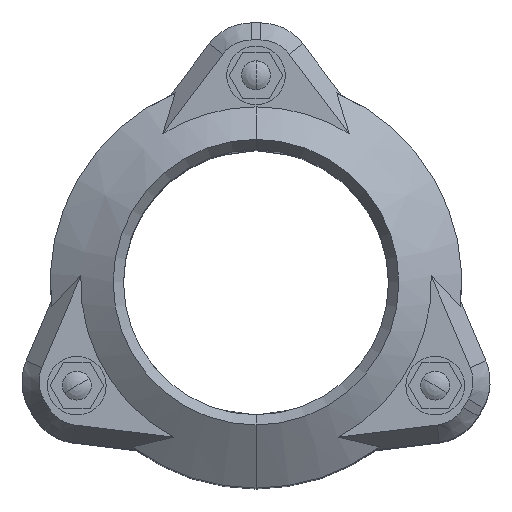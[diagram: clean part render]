
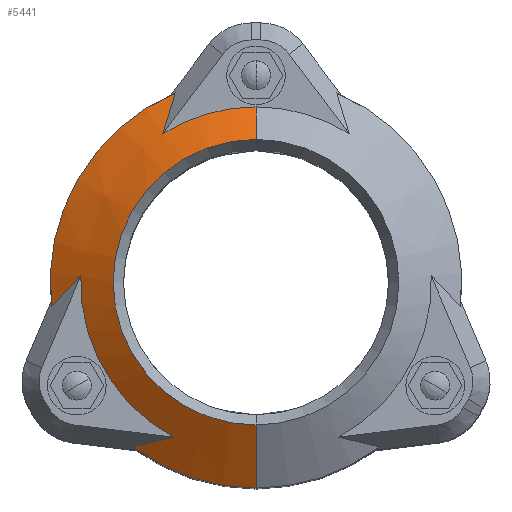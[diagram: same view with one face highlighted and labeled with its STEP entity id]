
A CAD part, top view. The second image highlights one B-rep face of the part: STEP entity #5441.
In plain terms, the highlighted conical face has half-angle 58 degrees and reference radius 71.396 mm.
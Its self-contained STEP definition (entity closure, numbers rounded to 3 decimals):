
#4231=CARTESIAN_POINT('',(-50.591,-67.421,
6.884));
#4257=CARTESIAN_POINT('',(-83.684,-10.102,
6.884));
#4314=CARTESIAN_POINT('',(-83.684,-10.102,
6.884));
#4315=CARTESIAN_POINT('',(-82.433,-8.866,
7.752));
#4316=CARTESIAN_POINT('',(-80.071,-6.485,
9.37));
#4317=CARTESIAN_POINT('',(-76.972,-3.235,
11.427));
#4318=CARTESIAN_POINT('',(-74.217,-0.216,
13.191));
#4319=CARTESIAN_POINT('',(-72.552,1.698,14.211));
#4320=CARTESIAN_POINT('',(-71.767,2.624,14.68));
#4322=CARTESIAN_POINT('',(0.,0.,6.884));
#4323=DIRECTION('',(0.,0.,-1.));
#4324=DIRECTION('',(-0.993,-0.12,0.));
#4325=AXIS2_PLACEMENT_3D('',#4322,#4323,#4324);
#4327=CARTESIAN_POINT('',(-38.156,60.84,14.68));
#4328=CARTESIAN_POINT('',(-37.746,61.984,14.21));
#4329=CARTESIAN_POINT('',(-36.92,64.386,13.189));
#4330=CARTESIAN_POINT('',(-35.681,68.289,11.422));
#4331=CARTESIAN_POINT('',(-34.415,72.6,9.363));
#4332=CARTESIAN_POINT('',(-33.537,75.828,7.749));
#4333=CARTESIAN_POINT('',(-33.093,77.523,6.884));
#4335=CARTESIAN_POINT('',(0.,0.,14.68));
#4336=DIRECTION('',(0.,0.,-1.));
#4337=DIRECTION('',(-0.531,0.847,0.));
#4338=AXIS2_PLACEMENT_3D('',#4335,#4336,#4337);
#4340=DIRECTION('',(0.,-0.848,0.53));
#4341=VECTOR('',#4340,15.701);
#4342=CARTESIAN_POINT('',(0.,71.815,14.68));
#4343=LINE('',#4342,#4341);
#4344=DIRECTION('',(0.,0.848,0.53));
#4345=VECTOR('',#4344,30.413);
#4346=CARTESIAN_POINT('',(0.,-84.291,6.884));
#4347=LINE('',#4346,#4345);
#4348=CARTESIAN_POINT('',(0.,0.,6.884));
#4349=DIRECTION('',(0.,0.,-1.));
#4350=DIRECTION('',(0.,-1.,0.));
#4351=AXIS2_PLACEMENT_3D('',#4348,#4349,#4350);
#4353=CARTESIAN_POINT('',(-33.611,-63.464,14.68));
#4354=CARTESIAN_POINT('',(-34.814,-63.682,
14.208));
#4355=CARTESIAN_POINT('',(-37.316,-64.169,
13.183));
#4356=CARTESIAN_POINT('',(-41.315,-65.049,
11.414));
#4357=CARTESIAN_POINT('',(-45.672,-66.106,
9.36));
#4358=CARTESIAN_POINT('',(-48.903,-66.959,
7.748));
#4359=CARTESIAN_POINT('',(-50.591,-67.421,
6.884));
#4361=CARTESIAN_POINT('',(0.,0.,14.68));
#4362=DIRECTION('',(0.,0.,1.));
#4363=DIRECTION('',(-0.999,0.037,0.));
#4364=AXIS2_PLACEMENT_3D('',#4361,#4362,#4363);
#4898=CARTESIAN_POINT('',(0.,0.,23.));
#4899=DIRECTION('',(0.,0.,1.));
#4900=DIRECTION('',(0.,1.,0.));
#4901=AXIS2_PLACEMENT_3D('',#4898,#4899,#4900);
#5051=CARTESIAN_POINT('',(0.,58.5,23.));
#5052=VERTEX_POINT('',#5051);
#5057=CARTESIAN_POINT('',(0.,-84.291,6.884));
#5058=CARTESIAN_POINT('',(0.,-58.5,23.));
#5059=VERTEX_POINT('',#5057);
#5060=VERTEX_POINT('',#5058);
#5069=CARTESIAN_POINT('',(0.,71.815,14.68));
#5070=VERTEX_POINT('',#5069);
#5080=CARTESIAN_POINT('',(-38.156,60.84,14.68));
#5082=VERTEX_POINT('',#5080);
#5100=VERTEX_POINT('',#4333);
#5202=CARTESIAN_POINT('',(-33.611,-63.464,14.68));
#5204=VERTEX_POINT('',#5202);
#5217=CARTESIAN_POINT('',(-71.767,2.624,14.68));
#5218=VERTEX_POINT('',#5217);
#5265=VERTEX_POINT('',#4257);
#5268=VERTEX_POINT('',#4231);
#5417=CARTESIAN_POINT('',(0.,0.,14.942));
#5418=DIRECTION('',(0.,0.,-1.));
#5419=DIRECTION('',(0.,-1.,0.));
#5420=AXIS2_PLACEMENT_3D('',#5417,#5418,#5419);
#5421=CONICAL_SURFACE('',#5420,71.396,58.);
#5423=ORIENTED_EDGE('',*,*,#5422,.F.);
#5424=ORIENTED_EDGE('',*,*,#5376,.T.);
#5426=ORIENTED_EDGE('',*,*,#5425,.F.);
#5428=ORIENTED_EDGE('',*,*,#5427,.T.);
#5430=ORIENTED_EDGE('',*,*,#5429,.T.);
#5432=ORIENTED_EDGE('',*,*,#5431,.T.);
#5434=ORIENTED_EDGE('',*,*,#5433,.F.);
#5435=ORIENTED_EDGE('',*,*,#5349,.T.);
#5436=ORIENTED_EDGE('',*,*,#5405,.F.);
#5438=ORIENTED_EDGE('',*,*,#5437,.F.);
#5439=EDGE_LOOP('',(#5423,#5424,#5426,#5428,#5430,#5432,#5434,#5435,#5436,
#5438));
#5440=FACE_OUTER_BOUND('',#5439,.F.);
#5441=ADVANCED_FACE('',(#5440),#5421,.T.);
#4321=B_SPLINE_CURVE_WITH_KNOTS('',3,(#4314,#4315,#4316,#4317,#4318,#4319,
#4320),.UNSPECIFIED.,.F.,.F.,(4,1,1,1,4),(0.,0.25,0.5,0.75,1.),
.UNSPECIFIED.);
#4326=CIRCLE('',#4325,84.291);
#4334=B_SPLINE_CURVE_WITH_KNOTS('',3,(#4327,#4328,#4329,#4330,#4331,#4332,
#4333),.UNSPECIFIED.,.F.,.F.,(4,1,1,1,4),(0.,0.25,0.5,0.75,1.),
.UNSPECIFIED.);
#4339=CIRCLE('',#4338,71.815);
#4352=CIRCLE('',#4351,84.291);
#4360=B_SPLINE_CURVE_WITH_KNOTS('',3,(#4353,#4354,#4355,#4356,#4357,#4358,
#4359),.UNSPECIFIED.,.F.,.F.,(4,1,1,1,4),(0.,0.25,0.5,0.75,1.),
.UNSPECIFIED.);
#4365=CIRCLE('',#4364,71.815);
#4902=CIRCLE('',#4901,58.5);
#5349=EDGE_CURVE('',#5059,#5268,#4352,.T.);
#5376=EDGE_CURVE('',#5265,#5100,#4326,.T.);
#5405=EDGE_CURVE('',#5204,#5268,#4360,.T.);
#5422=EDGE_CURVE('',#5265,#5218,#4321,.T.);
#5425=EDGE_CURVE('',#5082,#5100,#4334,.T.);
#5427=EDGE_CURVE('',#5082,#5070,#4339,.T.);
#5429=EDGE_CURVE('',#5070,#5052,#4343,.T.);
#5431=EDGE_CURVE('',#5052,#5060,#4902,.T.);
#5433=EDGE_CURVE('',#5059,#5060,#4347,.T.);
#5437=EDGE_CURVE('',#5218,#5204,#4365,.T.);
